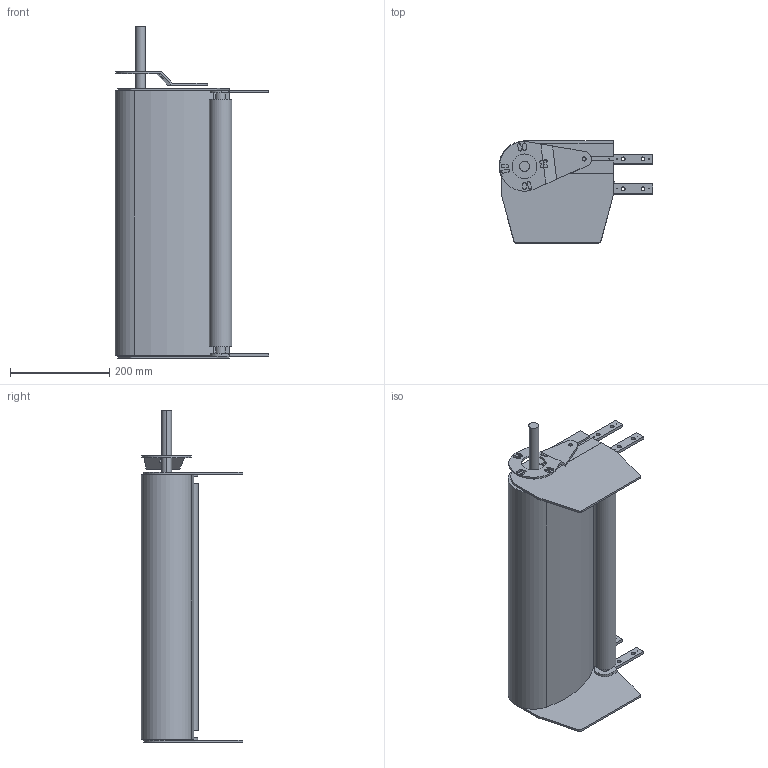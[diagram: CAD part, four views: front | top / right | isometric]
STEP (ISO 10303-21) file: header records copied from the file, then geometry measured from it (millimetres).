
FILE_DESCRIPTION (( 'STEP AP214' ), '1' );
FILE_NAME ('FS-550-MTS-100.ALU Left Drive section 20.STEP', '2017-02-08T09:33:16', ( '' ), ( '' ), 'SwSTEP 2.0', 'SolidWorks 2016', '' );
FILE_SCHEMA (( 'AUTOMOTIVE_DESIGN' ));
Length unit declared in the file: millimetre
Products named in the file (1): FS-550-MTS-100.ALU Left Drive section 20
Bounding box: 309.96 x 205 x 669 mm (x, y, z)
Volume: 4022087.8 mm3; surface area: 942326.8 mm2
Topology: 3 solids, 3 shells, 236 faces, 689 edges, 456 vertices
Faces by surface type: plane 131, cylinder 105
Entity records: 8039 total; most frequent: CARTESIAN_POINT 1394, ORIENTED_EDGE 1378, DIRECTION 1365, EDGE_CURVE 689, VECTOR 479, LINE 479, VERTEX_POINT 456, AXIS2_PLACEMENT_3D 443
